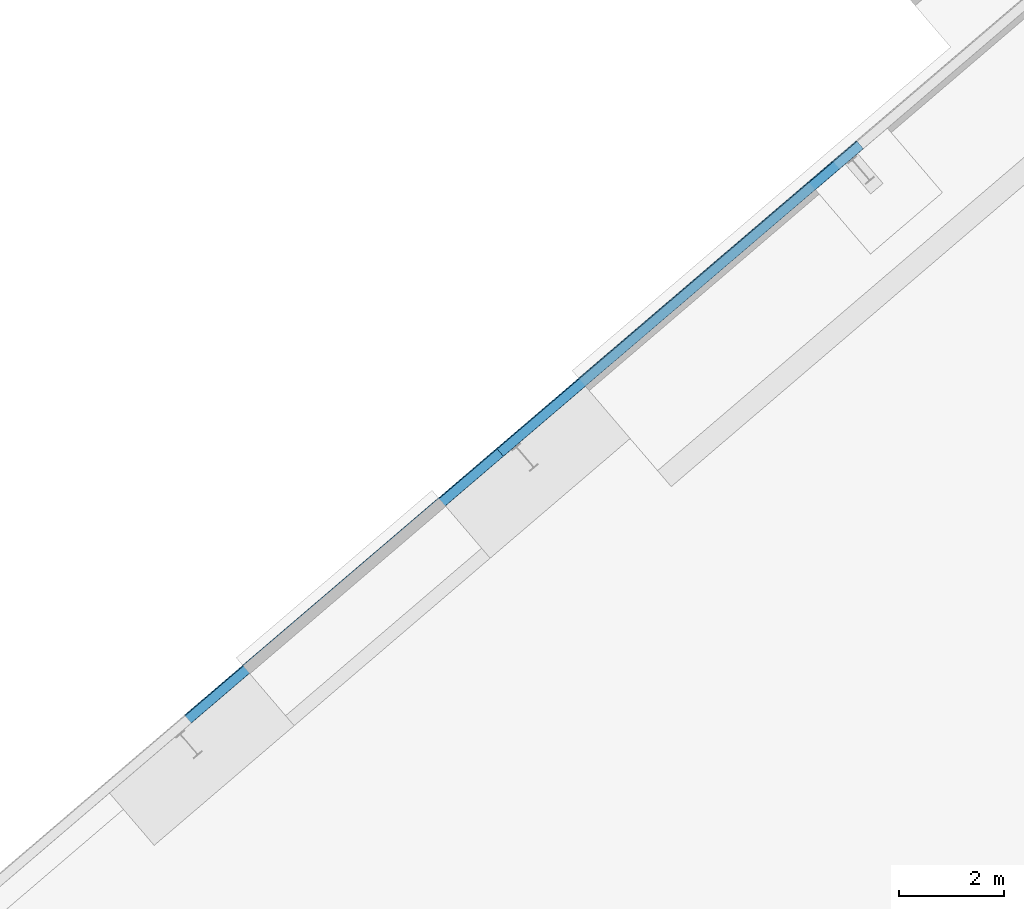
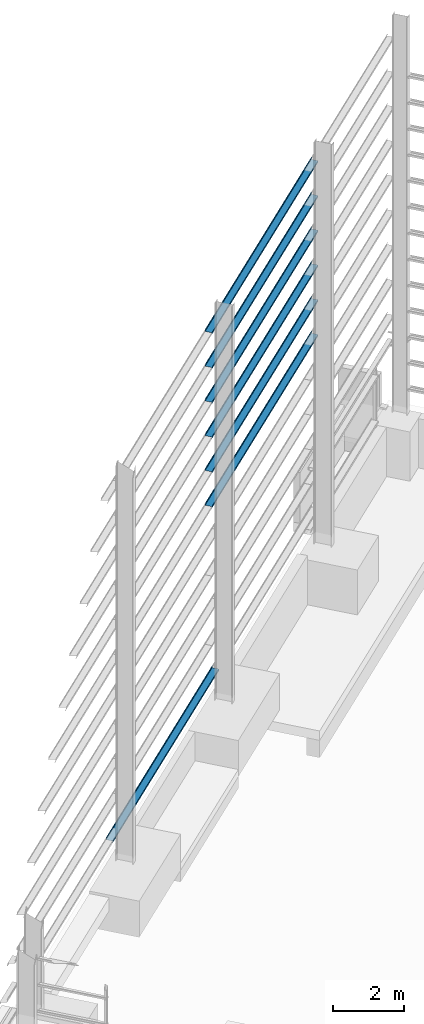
# One storey, part 18 of 41: 7 beams, 2 elements without a shape of their own.
"""IFC2X3 building model written with IfcOpenShell, lengths in millimetres."""

from ifc_helpers import new_model, entity, si_unit, converted_unit, derived_unit, direction, frame, frame_2d, origin, place, context, subcontext, project, spatial, polyline, circle_curve, parameter, trimmed, segment, composite_curve, outline, extrude, material, type_object, element, aggregate, save


model = new_model("IFC2X3")

# Units and contexts
model_context = context("Model", 3, precision=0.01, world=origin(), true_north=direction((6.123031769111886e-17, 1.0)))
body_context = subcontext(model_context, "Body", "Model", "MODEL_VIEW")
ifc_project = project(units=[si_unit("LENGTHUNIT", "METRE", prefix="MILLI"), si_unit("AREAUNIT", "SQUARE_METRE"), si_unit("VOLUMEUNIT", "CUBIC_METRE"), converted_unit("PLANEANGLEUNIT", "DEGREE", entity("IfcRatioMeasure", 0.017453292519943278), si_unit("PLANEANGLEUNIT", "RADIAN"), dimensions=[0, 0, 0, 0, 0, 0, 0]), si_unit("MASSUNIT", "GRAM", prefix="KILO"), derived_unit("MASSDENSITYUNIT", [(si_unit("MASSUNIT", "GRAM", prefix="KILO"), 1), (si_unit("LENGTHUNIT", "METRE"), -3)]), derived_unit("MOMENTOFINERTIAUNIT", [(si_unit("LENGTHUNIT", "METRE"), 4)]), si_unit("TIMEUNIT", "SECOND"), si_unit("FREQUENCYUNIT", "HERTZ"), si_unit("THERMODYNAMICTEMPERATUREUNIT", "DEGREE_CELSIUS"), derived_unit("THERMALTRANSMITTANCEUNIT", [(si_unit("MASSUNIT", "GRAM", prefix="KILO"), 1), (si_unit("THERMODYNAMICTEMPERATUREUNIT", "KELVIN"), -1), (si_unit("TIMEUNIT", "SECOND"), -3)]), derived_unit("VOLUMETRICFLOWRATEUNIT", [(si_unit("LENGTHUNIT", "METRE"), 3), (si_unit("TIMEUNIT", "SECOND"), -1)]), derived_unit("MASSFLOWRATEUNIT", [(si_unit("MASSUNIT", "GRAM", prefix="KILO"), 1), (si_unit("TIMEUNIT", "SECOND"), -1)]), derived_unit("ROTATIONALFREQUENCYUNIT", [(si_unit("TIMEUNIT", "SECOND"), -1)]), si_unit("ELECTRICCURRENTUNIT", "AMPERE"), si_unit("ELECTRICVOLTAGEUNIT", "VOLT"), si_unit("POWERUNIT", "WATT"), si_unit("FORCEUNIT", "NEWTON", prefix="KILO"), si_unit("ILLUMINANCEUNIT", "LUX"), si_unit("LUMINOUSFLUXUNIT", "LUMEN"), si_unit("LUMINOUSINTENSITYUNIT", "CANDELA"), derived_unit("USERDEFINED", [(si_unit("MASSUNIT", "GRAM", prefix="KILO"), -1), (si_unit("LENGTHUNIT", "METRE"), -2), (si_unit("TIMEUNIT", "SECOND"), 3), (si_unit("LUMINOUSFLUXUNIT", "LUMEN"), 1)]), derived_unit("SOUNDPOWERUNIT", [(si_unit("MASSUNIT", "GRAM", prefix="KILO"), 1), (si_unit("LENGTHUNIT", "METRE"), 2), (si_unit("TIMEUNIT", "SECOND"), -3)]), derived_unit("LINEARVELOCITYUNIT", [(si_unit("LENGTHUNIT", "METRE"), 1), (si_unit("TIMEUNIT", "SECOND"), -1)]), si_unit("PRESSUREUNIT", "PASCAL"), derived_unit("USERDEFINED", [(si_unit("LENGTHUNIT", "METRE"), -2), (si_unit("MASSUNIT", "GRAM", prefix="KILO"), 1), (si_unit("TIMEUNIT", "SECOND"), -2)]), derived_unit("LINEARFORCEUNIT", [(si_unit("MASSUNIT", "GRAM", prefix="KILO"), 1), (si_unit("LENGTHUNIT", "METRE"), 1), (si_unit("TIMEUNIT", "SECOND"), -2), (si_unit("LENGTHUNIT", "METRE"), -1)]), derived_unit("PLANARFORCEUNIT", [(si_unit("MASSUNIT", "GRAM", prefix="KILO"), 1), (si_unit("LENGTHUNIT", "METRE"), 1), (si_unit("TIMEUNIT", "SECOND"), -2), (si_unit("LENGTHUNIT", "METRE"), -2)])], contexts=[model_context])

# Site, building, storey
site_placement = place(None, frame((962.4174930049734, -6014.433753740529, 0.0), z_axis=(0.0, 0.0, 1.0), x_axis=(0.7601792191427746, 0.649713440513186, 0.0)))
site = spatial("IfcSite", under=ifc_project, at=site_placement, Name="Default", CompositionType="ELEMENT")
building_placement = place(site_placement, origin())
building = spatial("IfcBuilding", under=site, at=building_placement, CompositionType="ELEMENT")
storey_placement = place(building_placement, origin())
storey = spatial("IfcBuildingStorey", under=building, at=storey_placement, Name="Datum", CompositionType="ELEMENT", Elevation=0.0)

# Assembly, beams
assembly_1_placement = place(building_placement, origin())
assembly_1 = element("IfcElementAssembly", 1, at=assembly_1_placement, inside=storey, Name="Structural Beam System:Structural Beam System 1", ObjectType="Structural Beam System:Structural Beam System 1", AssemblyPlace="NOTDEFINED", PredefinedType="BEAM_GRID")
ifc_material = material(Name="Metal - Steel - 345 MPa")
beam_type = type_object("IfcBeamType", Name="ADSK_AU_Light Gauge-Zeds:Z20012", PredefinedType="NOTDEFINED")
beam_1_placement = place(building_placement, frame((170439.31020470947, 3669.071917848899, 12613.499999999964)))
beam_1 = element("IfcBeam", 2, at=beam_1_placement, type_object=beam_type, material=ifc_material, Name="ADSK_AU_Light Gauge-Zeds:Z20012", ObjectType="ADSK_AU_Light Gauge-Zeds:Z20012", context=body_context, shape_type="SweptSolid", body=[
    extrude(outline(composite_curve([segment(polyline([(6.439999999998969, -101.50000000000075), (63.23999999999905, -101.50000000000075)]), True, "CONTINUOUS"), segment(trimmed(circle_curve(frame_2d((63.23999999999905, -98.30000000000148), x_axis=(0.0, -1.0)), 3.199999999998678), [parameter(0.0)], [parameter(90.00000000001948)], True, "PARAMETER"), True, "CONTINUOUS"), segment(polyline([(66.4400000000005, -98.3000000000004), (66.4400000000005, -82.0)]), True, "CONTINUOUS"), segment(polyline([(66.4400000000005, -82.0), (65.24000000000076, -82.0)]), True, "CONTINUOUS"), segment(polyline([(65.2399999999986, -82.0), (65.2399999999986, -98.3000000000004)]), True, "CONTINUOUS"), segment(trimmed(circle_curve(frame_2d((63.23999999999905, -98.3000000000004), x_axis=(1.0, 0.0)), 1.9999999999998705), [parameter(269.9999999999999)], [parameter(0.0)], True, "PARAMETER"), False, "CONTINUOUS"), segment(polyline([(63.23999999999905, -100.30000000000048), (6.439999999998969, -100.30000000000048)]), True, "CONTINUOUS"), segment(trimmed(circle_curve(frame_2d((6.439999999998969, -98.3000000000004), x_axis=(0.0, -1.0)), 1.999999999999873), [parameter(269.9999999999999)], [parameter(0.0)], True, "PARAMETER"), False, "CONTINUOUS"), segment(polyline([(4.439999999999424, -98.3000000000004), (4.439999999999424, 98.29999999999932)]), True, "CONTINUOUS"), segment(trimmed(circle_curve(frame_2d((1.2400000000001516, 98.29999999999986), x_axis=(1.0, 0.0)), 3.199999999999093), [parameter(0.0)], [parameter(90.00000000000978)], True, "PARAMETER"), True, "CONTINUOUS"), segment(polyline([(1.2400000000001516, 101.49999999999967), (-68.35999999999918, 101.49999999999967)]), True, "CONTINUOUS"), segment(trimmed(circle_curve(frame_2d((-68.36000000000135, 98.3000000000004), x_axis=(0.0, 1.0)), 3.199999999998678), [parameter(0.0)], [parameter(90.00000000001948)], True, "PARAMETER"), True, "CONTINUOUS"), segment(polyline([(-71.56000000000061, 98.29999999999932), (-71.56000000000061, 82.0)]), True, "CONTINUOUS"), segment(polyline([(-71.56000000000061, 82.0), (-70.3600000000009, 82.0)]), True, "CONTINUOUS"), segment(polyline([(-70.3600000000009, 82.0), (-70.3600000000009, 98.29999999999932)]), True, "CONTINUOUS"), segment(trimmed(circle_curve(frame_2d((-68.36000000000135, 98.29999999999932), x_axis=(-1.0, 0.0)), 1.999999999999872), [parameter(269.9999999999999)], [parameter(0.0)], True, "PARAMETER"), False, "CONTINUOUS"), segment(polyline([(-68.36000000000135, 100.2999999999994), (1.2399999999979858, 100.2999999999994)]), True, "CONTINUOUS"), segment(trimmed(circle_curve(frame_2d((1.2400000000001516, 98.29999999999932), x_axis=(0.0, 1.0)), 1.999999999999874), [parameter(269.9999999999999)], [parameter(0.0)], True, "PARAMETER"), False, "CONTINUOUS"), segment(polyline([(3.2399999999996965, 98.29999999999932), (3.2399999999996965, -98.3000000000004)]), True, "CONTINUOUS"), segment(trimmed(circle_curve(frame_2d((6.439999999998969, -98.30000000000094), x_axis=(-1.0, 0.0)), 3.199999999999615), [parameter(0.0)], [parameter(90.00000000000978)], True, "PARAMETER"), True, "CONTINUOUS")], self_intersect=False)), frame((0.1499999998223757, 101.50000000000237, 4.439999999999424), z_axis=(1.0, 0.0, 0.0), x_axis=(0.0, 0.0, -1.0)), (0.0, 0.0, 1.0), 8999.000000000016),
])
beam_2_placement = place(building_placement, frame((170439.31020470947, 3669.071917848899, 11413.499999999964)))
beam_2 = element("IfcBeam", 3, at=beam_2_placement, type_object=beam_type, material=ifc_material, Name="ADSK_AU_Light Gauge-Zeds:Z20012", ObjectType="ADSK_AU_Light Gauge-Zeds:Z20012", context=body_context, shape_type="SweptSolid", body=[
    extrude(outline(composite_curve([segment(polyline([(6.440000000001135, -101.50000000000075), (63.24000000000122, -101.50000000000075)]), True, "CONTINUOUS"), segment(trimmed(circle_curve(frame_2d((63.24000000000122, -98.30000000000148), x_axis=(0.0, -1.0)), 3.199999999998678), [parameter(0.0)], [parameter(90.00000000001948)], True, "PARAMETER"), True, "CONTINUOUS"), segment(polyline([(66.44000000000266, -98.3000000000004), (66.44000000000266, -82.0)]), True, "CONTINUOUS"), segment(polyline([(66.44000000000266, -82.0), (65.24000000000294, -82.0)]), True, "CONTINUOUS"), segment(polyline([(65.24000000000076, -82.0), (65.24000000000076, -98.3000000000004)]), True, "CONTINUOUS"), segment(trimmed(circle_curve(frame_2d((63.24000000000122, -98.3000000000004), x_axis=(1.0, 0.0)), 1.9999999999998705), [parameter(269.9999999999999)], [parameter(0.0)], True, "PARAMETER"), False, "CONTINUOUS"), segment(polyline([(63.24000000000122, -100.30000000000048), (6.440000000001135, -100.30000000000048)]), True, "CONTINUOUS"), segment(trimmed(circle_curve(frame_2d((6.440000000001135, -98.3000000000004), x_axis=(0.0, -1.0)), 1.999999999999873), [parameter(269.9999999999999)], [parameter(0.0)], True, "PARAMETER"), False, "CONTINUOUS"), segment(polyline([(4.440000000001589, -98.3000000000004), (4.440000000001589, 98.29999999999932)]), True, "CONTINUOUS"), segment(trimmed(circle_curve(frame_2d((1.240000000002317, 98.29999999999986), x_axis=(1.0, 0.0)), 3.199999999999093), [parameter(0.0)], [parameter(90.00000000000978)], True, "PARAMETER"), True, "CONTINUOUS"), segment(polyline([(1.240000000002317, 101.49999999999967), (-68.35999999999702, 101.49999999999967)]), True, "CONTINUOUS"), segment(trimmed(circle_curve(frame_2d((-68.35999999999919, 98.3000000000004), x_axis=(0.0, 1.0)), 3.199999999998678), [parameter(0.0)], [parameter(90.00000000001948)], True, "PARAMETER"), True, "CONTINUOUS"), segment(polyline([(-71.55999999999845, 98.29999999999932), (-71.55999999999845, 82.0)]), True, "CONTINUOUS"), segment(polyline([(-71.55999999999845, 82.0), (-70.35999999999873, 82.0)]), True, "CONTINUOUS"), segment(polyline([(-70.35999999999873, 82.0), (-70.35999999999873, 98.29999999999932)]), True, "CONTINUOUS"), segment(trimmed(circle_curve(frame_2d((-68.35999999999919, 98.29999999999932), x_axis=(-1.0, 0.0)), 1.999999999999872), [parameter(269.9999999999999)], [parameter(0.0)], True, "PARAMETER"), False, "CONTINUOUS"), segment(polyline([(-68.35999999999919, 100.2999999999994), (1.2400000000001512, 100.2999999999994)]), True, "CONTINUOUS"), segment(trimmed(circle_curve(frame_2d((1.240000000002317, 98.29999999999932), x_axis=(0.0, 1.0)), 1.999999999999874), [parameter(269.9999999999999)], [parameter(0.0)], True, "PARAMETER"), False, "CONTINUOUS"), segment(polyline([(3.240000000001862, 98.29999999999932), (3.240000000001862, -98.3000000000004)]), True, "CONTINUOUS"), segment(trimmed(circle_curve(frame_2d((6.440000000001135, -98.30000000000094), x_axis=(-1.0, 0.0)), 3.199999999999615), [parameter(0.0)], [parameter(90.00000000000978)], True, "PARAMETER"), True, "CONTINUOUS")], self_intersect=False)), frame((0.1499999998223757, 101.50000000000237, 4.440000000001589), z_axis=(1.0, 0.0, 0.0), x_axis=(0.0, 0.0, -1.0)), (0.0, 0.0, 1.0), 8999.000000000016),
])
beam_3_placement = place(building_placement, frame((170439.31020470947, 3669.071917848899, 10213.499999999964)))
beam_3 = element("IfcBeam", 4, at=beam_3_placement, type_object=beam_type, material=ifc_material, Name="ADSK_AU_Light Gauge-Zeds:Z20012", ObjectType="ADSK_AU_Light Gauge-Zeds:Z20012", context=body_context, shape_type="SweptSolid", body=[
    extrude(outline(composite_curve([segment(polyline([(6.439999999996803, -101.50000000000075), (63.23999999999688, -101.50000000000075)]), True, "CONTINUOUS"), segment(trimmed(circle_curve(frame_2d((63.23999999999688, -98.30000000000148), x_axis=(0.0, -1.0)), 3.199999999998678), [parameter(0.0)], [parameter(90.00000000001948)], True, "PARAMETER"), True, "CONTINUOUS"), segment(polyline([(66.43999999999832, -98.3000000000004), (66.43999999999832, -82.0)]), True, "CONTINUOUS"), segment(polyline([(66.43999999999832, -82.0), (65.2399999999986, -82.0)]), True, "CONTINUOUS"), segment(polyline([(65.23999999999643, -82.0), (65.23999999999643, -98.3000000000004)]), True, "CONTINUOUS"), segment(trimmed(circle_curve(frame_2d((63.23999999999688, -98.3000000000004), x_axis=(1.0, 0.0)), 1.9999999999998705), [parameter(269.9999999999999)], [parameter(0.0)], True, "PARAMETER"), False, "CONTINUOUS"), segment(polyline([(63.23999999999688, -100.30000000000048), (6.439999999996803, -100.30000000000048)]), True, "CONTINUOUS"), segment(trimmed(circle_curve(frame_2d((6.439999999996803, -98.3000000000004), x_axis=(0.0, -1.0)), 1.999999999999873), [parameter(269.9999999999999)], [parameter(0.0)], True, "PARAMETER"), False, "CONTINUOUS"), segment(polyline([(4.439999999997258, -98.3000000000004), (4.439999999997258, 98.29999999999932)]), True, "CONTINUOUS"), segment(trimmed(circle_curve(frame_2d((1.2399999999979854, 98.29999999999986), x_axis=(1.0, 0.0)), 3.199999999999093), [parameter(0.0)], [parameter(90.00000000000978)], True, "PARAMETER"), True, "CONTINUOUS"), segment(polyline([(1.2399999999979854, 101.49999999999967), (-68.36000000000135, 101.49999999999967)]), True, "CONTINUOUS"), segment(trimmed(circle_curve(frame_2d((-68.36000000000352, 98.3000000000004), x_axis=(0.0, 1.0)), 3.199999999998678), [parameter(0.0)], [parameter(90.00000000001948)], True, "PARAMETER"), True, "CONTINUOUS"), segment(polyline([(-71.56000000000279, 98.29999999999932), (-71.56000000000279, 82.0)]), True, "CONTINUOUS"), segment(polyline([(-71.56000000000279, 82.0), (-70.36000000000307, 82.0)]), True, "CONTINUOUS"), segment(polyline([(-70.36000000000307, 82.0), (-70.36000000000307, 98.29999999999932)]), True, "CONTINUOUS"), segment(trimmed(circle_curve(frame_2d((-68.36000000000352, 98.29999999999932), x_axis=(-1.0, 0.0)), 1.999999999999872), [parameter(269.9999999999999)], [parameter(0.0)], True, "PARAMETER"), False, "CONTINUOUS"), segment(polyline([(-68.36000000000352, 100.2999999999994), (1.2399999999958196, 100.2999999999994)]), True, "CONTINUOUS"), segment(trimmed(circle_curve(frame_2d((1.2399999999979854, 98.29999999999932), x_axis=(0.0, 1.0)), 1.999999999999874), [parameter(269.9999999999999)], [parameter(0.0)], True, "PARAMETER"), False, "CONTINUOUS"), segment(polyline([(3.23999999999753, 98.29999999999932), (3.23999999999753, -98.3000000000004)]), True, "CONTINUOUS"), segment(trimmed(circle_curve(frame_2d((6.439999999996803, -98.30000000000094), x_axis=(-1.0, 0.0)), 3.199999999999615), [parameter(0.0)], [parameter(90.00000000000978)], True, "PARAMETER"), True, "CONTINUOUS")], self_intersect=False)), frame((0.1499999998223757, 101.50000000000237, 4.439999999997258), z_axis=(1.0, 0.0, 0.0), x_axis=(0.0, 0.0, -1.0)), (0.0, 0.0, 1.0), 8999.000000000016),
])
beam_4_placement = place(building_placement, frame((170439.31020470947, 3669.071917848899, 9013.499999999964)))
beam_4 = element("IfcBeam", 5, at=beam_4_placement, type_object=beam_type, material=ifc_material, Name="ADSK_AU_Light Gauge-Zeds:Z20012", ObjectType="ADSK_AU_Light Gauge-Zeds:Z20012", context=body_context, shape_type="SweptSolid", body=[
    extrude(outline(composite_curve([segment(polyline([(6.4400000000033, -101.50000000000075), (63.24000000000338, -101.50000000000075)]), True, "CONTINUOUS"), segment(trimmed(circle_curve(frame_2d((63.24000000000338, -98.29999999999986), x_axis=(0.0, -1.0)), 3.2000000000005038), [parameter(0.0)], [parameter(89.9999999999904)], True, "PARAMETER"), True, "CONTINUOUS"), segment(polyline([(66.44000000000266, -98.3000000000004), (66.44000000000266, -82.0)]), True, "CONTINUOUS"), segment(polyline([(66.44000000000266, -82.0), (65.24000000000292, -82.0)]), True, "CONTINUOUS"), segment(polyline([(65.24000000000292, -82.0), (65.24000000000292, -98.3000000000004)]), True, "CONTINUOUS"), segment(trimmed(circle_curve(frame_2d((63.24000000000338, -98.30000000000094), x_axis=(1.0, 0.0)), 1.9999999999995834), [parameter(269.99999999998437)], [parameter(0.0)], True, "PARAMETER"), False, "CONTINUOUS"), segment(polyline([(63.24000000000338, -100.30000000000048), (6.4400000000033, -100.30000000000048)]), True, "CONTINUOUS"), segment(trimmed(circle_curve(frame_2d((6.4400000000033, -98.30000000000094), x_axis=(0.0, -1.0)), 1.9999999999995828), [parameter(269.99999999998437)], [parameter(0.0)], True, "PARAMETER"), False, "CONTINUOUS"), segment(polyline([(4.440000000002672, -98.3000000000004), (4.440000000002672, 98.29999999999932)]), True, "CONTINUOUS"), segment(trimmed(circle_curve(frame_2d((1.2400000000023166, 98.29999999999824), x_axis=(1.0, 0.0)), 3.2000000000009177), [parameter(0.0)], [parameter(89.9999999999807)], True, "PARAMETER"), True, "CONTINUOUS"), segment(polyline([(1.2400000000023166, 101.49999999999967), (-68.35999999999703, 101.49999999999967)]), True, "CONTINUOUS"), segment(trimmed(circle_curve(frame_2d((-68.35999999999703, 98.29999999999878), x_axis=(0.0, 1.0)), 3.2000000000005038), [parameter(0.0)], [parameter(89.9999999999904)], True, "PARAMETER"), True, "CONTINUOUS"), segment(polyline([(-71.55999999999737, 98.29999999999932), (-71.55999999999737, 82.0)]), True, "CONTINUOUS"), segment(polyline([(-71.55999999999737, 82.0), (-70.35999999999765, 82.0)]), True, "CONTINUOUS"), segment(polyline([(-70.35999999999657, 82.0), (-70.35999999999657, 98.29999999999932)]), True, "CONTINUOUS"), segment(trimmed(circle_curve(frame_2d((-68.35999999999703, 98.29999999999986), x_axis=(-1.0, 0.0)), 1.9999999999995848), [parameter(269.99999999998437)], [parameter(0.0)], True, "PARAMETER"), False, "CONTINUOUS"), segment(polyline([(-68.35999999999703, 100.2999999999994), (1.2400000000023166, 100.2999999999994)]), True, "CONTINUOUS"), segment(trimmed(circle_curve(frame_2d((1.2400000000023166, 98.29999999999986), x_axis=(0.0, 1.0)), 1.999999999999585), [parameter(269.99999999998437)], [parameter(0.0)], True, "PARAMETER"), False, "CONTINUOUS"), segment(polyline([(3.2400000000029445, 98.29999999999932), (3.2400000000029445, -98.3000000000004)]), True, "CONTINUOUS"), segment(trimmed(circle_curve(frame_2d((6.4400000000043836, -98.29999999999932), x_axis=(-1.0, 0.0)), 3.2000000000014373), [parameter(0.0)], [parameter(89.99999999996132)], True, "PARAMETER"), True, "CONTINUOUS")], self_intersect=False)), frame((0.1499999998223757, 101.50000000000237, 4.440000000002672), z_axis=(1.0, 0.0, 0.0), x_axis=(0.0, 0.0, -1.0)), (0.0, 0.0, 1.0), 8999.000000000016),
])
beam_5_placement = place(building_placement, frame((170439.31020470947, 3669.071917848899, 7813.499999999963)))
beam_5 = element("IfcBeam", 6, at=beam_5_placement, type_object=beam_type, material=ifc_material, Name="ADSK_AU_Light Gauge-Zeds:Z20012", ObjectType="ADSK_AU_Light Gauge-Zeds:Z20012", context=body_context, shape_type="SweptSolid", body=[
    extrude(outline(composite_curve([segment(polyline([(6.440000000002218, -101.50000000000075), (63.2400000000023, -101.50000000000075)]), True, "CONTINUOUS"), segment(trimmed(circle_curve(frame_2d((63.2400000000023, -98.29999999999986), x_axis=(0.0, -1.0)), 3.2000000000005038), [parameter(0.0)], [parameter(89.9999999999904)], True, "PARAMETER"), True, "CONTINUOUS"), segment(polyline([(66.44000000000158, -98.3000000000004), (66.44000000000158, -82.0)]), True, "CONTINUOUS"), segment(polyline([(66.44000000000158, -82.0), (65.24000000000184, -82.0)]), True, "CONTINUOUS"), segment(polyline([(65.24000000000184, -82.0), (65.24000000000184, -98.3000000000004)]), True, "CONTINUOUS"), segment(trimmed(circle_curve(frame_2d((63.2400000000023, -98.30000000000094), x_axis=(1.0, 0.0)), 1.9999999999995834), [parameter(269.99999999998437)], [parameter(0.0)], True, "PARAMETER"), False, "CONTINUOUS"), segment(polyline([(63.2400000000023, -100.30000000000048), (6.440000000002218, -100.30000000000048)]), True, "CONTINUOUS"), segment(trimmed(circle_curve(frame_2d((6.440000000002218, -98.30000000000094), x_axis=(0.0, -1.0)), 1.9999999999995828), [parameter(269.99999999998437)], [parameter(0.0)], True, "PARAMETER"), False, "CONTINUOUS"), segment(polyline([(4.440000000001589, -98.3000000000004), (4.440000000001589, 98.29999999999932)]), True, "CONTINUOUS"), segment(trimmed(circle_curve(frame_2d((1.240000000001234, 98.29999999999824), x_axis=(1.0, 0.0)), 3.2000000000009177), [parameter(0.0)], [parameter(89.9999999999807)], True, "PARAMETER"), True, "CONTINUOUS"), segment(polyline([(1.240000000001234, 101.49999999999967), (-68.35999999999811, 101.49999999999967)]), True, "CONTINUOUS"), segment(trimmed(circle_curve(frame_2d((-68.35999999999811, 98.29999999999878), x_axis=(0.0, 1.0)), 3.2000000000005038), [parameter(0.0)], [parameter(89.9999999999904)], True, "PARAMETER"), True, "CONTINUOUS"), segment(polyline([(-71.55999999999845, 98.29999999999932), (-71.55999999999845, 82.0)]), True, "CONTINUOUS"), segment(polyline([(-71.55999999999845, 82.0), (-70.35999999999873, 82.0)]), True, "CONTINUOUS"), segment(polyline([(-70.35999999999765, 82.0), (-70.35999999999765, 98.29999999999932)]), True, "CONTINUOUS"), segment(trimmed(circle_curve(frame_2d((-68.35999999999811, 98.29999999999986), x_axis=(-1.0, 0.0)), 1.9999999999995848), [parameter(269.99999999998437)], [parameter(0.0)], True, "PARAMETER"), False, "CONTINUOUS"), segment(polyline([(-68.35999999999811, 100.2999999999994), (1.240000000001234, 100.2999999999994)]), True, "CONTINUOUS"), segment(trimmed(circle_curve(frame_2d((1.240000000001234, 98.29999999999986), x_axis=(0.0, 1.0)), 1.999999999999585), [parameter(269.99999999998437)], [parameter(0.0)], True, "PARAMETER"), False, "CONTINUOUS"), segment(polyline([(3.240000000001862, 98.29999999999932), (3.240000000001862, -98.3000000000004)]), True, "CONTINUOUS"), segment(trimmed(circle_curve(frame_2d((6.4400000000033, -98.29999999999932), x_axis=(-1.0, 0.0)), 3.2000000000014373), [parameter(0.0)], [parameter(89.99999999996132)], True, "PARAMETER"), True, "CONTINUOUS")], self_intersect=False)), frame((0.1499999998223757, 101.50000000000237, 4.440000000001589), z_axis=(1.0, 0.0, 0.0), x_axis=(0.0, 0.0, -1.0)), (0.0, 0.0, 1.0), 8999.000000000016),
])
beam_6_placement = place(building_placement, frame((170439.31020470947, 3669.071917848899, 6613.499999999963)))
beam_6 = element("IfcBeam", 7, at=beam_6_placement, type_object=beam_type, material=ifc_material, Name="ADSK_AU_Light Gauge-Zeds:Z20012", ObjectType="ADSK_AU_Light Gauge-Zeds:Z20012", context=body_context, shape_type="SweptSolid", body=[
    extrude(outline(composite_curve([segment(polyline([(6.440000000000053, -101.50000000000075), (63.24000000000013, -101.50000000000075)]), True, "CONTINUOUS"), segment(trimmed(circle_curve(frame_2d((63.24000000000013, -98.29999999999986), x_axis=(0.0, -1.0)), 3.2000000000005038), [parameter(0.0)], [parameter(89.9999999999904)], True, "PARAMETER"), True, "CONTINUOUS"), segment(polyline([(66.43999999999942, -98.3000000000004), (66.43999999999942, -82.0)]), True, "CONTINUOUS"), segment(polyline([(66.43999999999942, -82.0), (65.23999999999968, -82.0)]), True, "CONTINUOUS"), segment(polyline([(65.23999999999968, -82.0), (65.23999999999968, -98.3000000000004)]), True, "CONTINUOUS"), segment(trimmed(circle_curve(frame_2d((63.24000000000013, -98.30000000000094), x_axis=(1.0, 0.0)), 1.9999999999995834), [parameter(269.99999999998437)], [parameter(0.0)], True, "PARAMETER"), False, "CONTINUOUS"), segment(polyline([(63.24000000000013, -100.30000000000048), (6.440000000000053, -100.30000000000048)]), True, "CONTINUOUS"), segment(trimmed(circle_curve(frame_2d((6.440000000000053, -98.30000000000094), x_axis=(0.0, -1.0)), 1.9999999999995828), [parameter(269.99999999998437)], [parameter(0.0)], True, "PARAMETER"), False, "CONTINUOUS"), segment(polyline([(4.439999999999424, -98.3000000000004), (4.439999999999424, 98.29999999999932)]), True, "CONTINUOUS"), segment(trimmed(circle_curve(frame_2d((1.2399999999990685, 98.29999999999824), x_axis=(1.0, 0.0)), 3.2000000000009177), [parameter(0.0)], [parameter(89.9999999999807)], True, "PARAMETER"), True, "CONTINUOUS"), segment(polyline([(1.2399999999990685, 101.49999999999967), (-68.36000000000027, 101.49999999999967)]), True, "CONTINUOUS"), segment(trimmed(circle_curve(frame_2d((-68.36000000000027, 98.29999999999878), x_axis=(0.0, 1.0)), 3.2000000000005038), [parameter(0.0)], [parameter(89.9999999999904)], True, "PARAMETER"), True, "CONTINUOUS"), segment(polyline([(-71.56000000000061, 98.29999999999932), (-71.56000000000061, 82.0)]), True, "CONTINUOUS"), segment(polyline([(-71.56000000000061, 82.0), (-70.3600000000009, 82.0)]), True, "CONTINUOUS"), segment(polyline([(-70.35999999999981, 82.0), (-70.35999999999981, 98.29999999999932)]), True, "CONTINUOUS"), segment(trimmed(circle_curve(frame_2d((-68.36000000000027, 98.29999999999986), x_axis=(-1.0, 0.0)), 1.9999999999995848), [parameter(269.99999999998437)], [parameter(0.0)], True, "PARAMETER"), False, "CONTINUOUS"), segment(polyline([(-68.36000000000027, 100.2999999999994), (1.2399999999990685, 100.2999999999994)]), True, "CONTINUOUS"), segment(trimmed(circle_curve(frame_2d((1.2399999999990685, 98.29999999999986), x_axis=(0.0, 1.0)), 1.999999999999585), [parameter(269.99999999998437)], [parameter(0.0)], True, "PARAMETER"), False, "CONTINUOUS"), segment(polyline([(3.2399999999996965, 98.29999999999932), (3.2399999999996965, -98.3000000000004)]), True, "CONTINUOUS"), segment(trimmed(circle_curve(frame_2d((6.440000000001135, -98.29999999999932), x_axis=(-1.0, 0.0)), 3.2000000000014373), [parameter(0.0)], [parameter(89.99999999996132)], True, "PARAMETER"), True, "CONTINUOUS")], self_intersect=False)), frame((0.1499999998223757, 101.50000000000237, 4.439999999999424), z_axis=(1.0, 0.0, 0.0), x_axis=(0.0, 0.0, -1.0)), (0.0, 0.0, 1.0), 8999.000000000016),
])
aggregate(assembly_1, [beam_1, beam_2, beam_3, beam_4, beam_5, beam_6])

# Assembly, beam
assembly_2_placement = place(building_placement, origin())
assembly_2 = element("IfcElementAssembly", 8, at=assembly_2_placement, inside=storey, Name="Structural Beam System:Structural Beam System 1", ObjectType="Structural Beam System:Structural Beam System 1", AssemblyPlace="NOTDEFINED", PredefinedType="BEAM_GRID")
beam_7_placement = place(building_placement, frame((162039.31020470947, 3669.071917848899, 613.4999999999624)))
beam_7 = element("IfcBeam", 9, at=beam_7_placement, type_object=beam_type, material=ifc_material, Name="ADSK_AU_Light Gauge-Zeds:Z20012", ObjectType="ADSK_AU_Light Gauge-Zeds:Z20012", context=body_context, shape_type="SweptSolid", body=[
    extrude(outline(composite_curve([segment(polyline([(6.440000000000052, -101.50000000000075), (63.24000000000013, -101.50000000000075)]), True, "CONTINUOUS"), segment(trimmed(circle_curve(frame_2d((63.24000000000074, -98.30000000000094), x_axis=(0.0, -1.0)), 3.1999999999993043), [parameter(0.0)], [parameter(90.00000000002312)], True, "PARAMETER"), True, "CONTINUOUS"), segment(polyline([(66.44000000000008, -98.3000000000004), (66.44000000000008, -82.0)]), True, "CONTINUOUS"), segment(polyline([(66.44000000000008, -82.0), (65.24000000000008, -82.0)]), True, "CONTINUOUS"), segment(polyline([(65.24000000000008, -82.0), (65.24000000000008, -98.3000000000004)]), True, "CONTINUOUS"), segment(trimmed(circle_curve(frame_2d((63.239999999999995, -98.3000000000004), x_axis=(1.0, 0.0)), 2.000000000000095), [parameter(270.0000000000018)], [parameter(0.0)], True, "PARAMETER"), False, "CONTINUOUS"), segment(polyline([(63.240000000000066, -100.30000000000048), (6.439999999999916, -100.30000000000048)]), True, "CONTINUOUS"), segment(trimmed(circle_curve(frame_2d((6.440000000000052, -98.3000000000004), x_axis=(0.0, -1.0)), 2.000000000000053), [parameter(269.9999999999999)], [parameter(0.0)], True, "PARAMETER"), False, "CONTINUOUS"), segment(polyline([(4.43999999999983, -98.3000000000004), (4.43999999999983, 98.29999999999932)]), True, "CONTINUOUS"), segment(trimmed(circle_curve(frame_2d((1.2400000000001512, 98.29999999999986), x_axis=(1.0, 0.0)), 3.1999999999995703), [parameter(0.0)], [parameter(90.00000000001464)], True, "PARAMETER"), True, "CONTINUOUS"), segment(polyline([(1.2399999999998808, 101.49999999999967), (-68.35999999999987, 101.49999999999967)]), True, "CONTINUOUS"), segment(trimmed(circle_curve(frame_2d((-68.36000000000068, 98.29999999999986), x_axis=(0.0, 1.0)), 3.199999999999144), [parameter(0.0)], [parameter(90.00000000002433)], True, "PARAMETER"), True, "CONTINUOUS"), segment(polyline([(-71.55999999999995, 98.29999999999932), (-71.55999999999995, 82.0)]), True, "CONTINUOUS"), segment(polyline([(-71.55999999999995, 82.0), (-70.35999999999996, 82.0)]), True, "CONTINUOUS"), segment(polyline([(-70.35999999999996, 82.0), (-70.35999999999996, 98.29999999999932)]), True, "CONTINUOUS"), segment(trimmed(circle_curve(frame_2d((-68.35999999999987, 98.29999999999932), x_axis=(-1.0, 0.0)), 2.000000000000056), [parameter(269.9999999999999)], [parameter(0.0)], True, "PARAMETER"), False, "CONTINUOUS"), segment(polyline([(-68.35999999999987, 100.2999999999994), (1.2399999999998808, 100.2999999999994)]), True, "CONTINUOUS"), segment(trimmed(circle_curve(frame_2d((1.2399999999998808, 98.29999999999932), x_axis=(0.0, 1.0)), 2.000000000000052), [parameter(269.9999999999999)], [parameter(0.0)], True, "PARAMETER"), False, "CONTINUOUS"), segment(polyline([(3.239999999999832, 98.29999999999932), (3.239999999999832, -98.3000000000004)]), True, "CONTINUOUS"), segment(trimmed(circle_curve(frame_2d((6.440000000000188, -98.3000000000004), x_axis=(-1.0, 0.0)), 3.2000000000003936), [parameter(0.0)], [parameter(89.99999999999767)], True, "PARAMETER"), True, "CONTINUOUS")], self_intersect=False)), frame((0.14999999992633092, 101.50000000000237, 4.43999999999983), z_axis=(1.0, 0.0, 0.0), x_axis=(0.0, 0.0, -1.0)), (0.0, 0.0, 1.0), 8999.000000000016),
])
aggregate(assembly_2, [beam_7])

save(model, "model.ifc")
